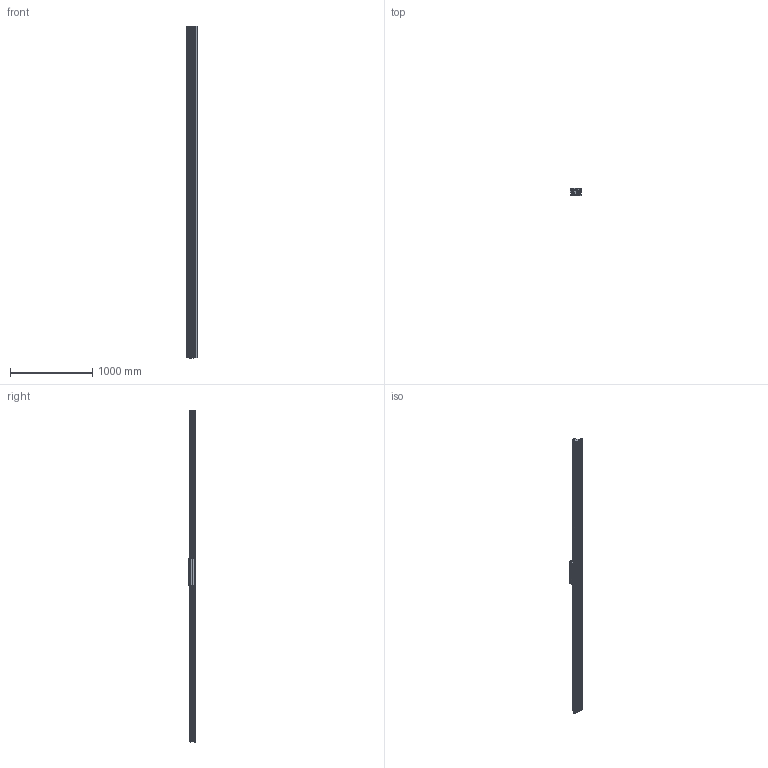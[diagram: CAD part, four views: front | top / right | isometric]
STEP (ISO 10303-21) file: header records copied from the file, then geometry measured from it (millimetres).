
FILE_DESCRIPTION (( 'STEP AP214' ), '1' );
FILE_NAME ('SINADRIVES Linear motor stage MLL20400XS-XX-1-0-ST-00-04020.STEP', '2015-07-07T06:36:59', ( 'Tecnico' ), ( '' ), 'SwSTEP 2.0', 'SolidWorks 2009', '' );
FILE_SCHEMA (( 'AUTOMOTIVE_DESIGN' ));
Length unit declared in the file: millimetre
Products named in the file (7): SINADRIVES PROFILE MLL2XXXX-4004; SINADRIVES CARRIAGE MLL20400XS-1; CARRIAGE MLL20400; Connector power+signal Y-tec 45; SINADRIVES ENDBLOCK MLL2; SINADRIVES ENDBLOCK MLL2-2; SINADRIVES Linear motor stage MLL20400XS-XX-1-0-ST-00-04020
Assembly tree (6 placements, depth 3):
  SINADRIVES Linear motor stage MLL20400XS-XX-1-0-ST-00-04020
    SINADRIVES ENDBLOCK MLL2
    SINADRIVES PROFILE MLL2XXXX-4004
    SINADRIVES CARRIAGE MLL20400XS-1
      CARRIAGE MLL20400
      Connector power+signal Y-tec 45
    SINADRIVES ENDBLOCK MLL2-2
Bounding box: 144.43 x 91 x 4028.8 mm (x, y, z)
Volume: 17845702.5 mm3; surface area: 3058580.5 mm2
Topology: 2 solids, 42 shells, 950 faces, 2640 edges, 1730 vertices
Faces by surface type: plane 445, cylinder 302, bspline 79, cone 70, torus 42, sphere 12
Entity records: 40587 total; most frequent: CARTESIAN_POINT 8656, ORIENTED_EDGE 5024, DIRECTION 4947, EDGE_CURVE 2622, AXIS2_PLACEMENT_3D 1781, VERTEX_POINT 1730, LINE 1385, VECTOR 1385
